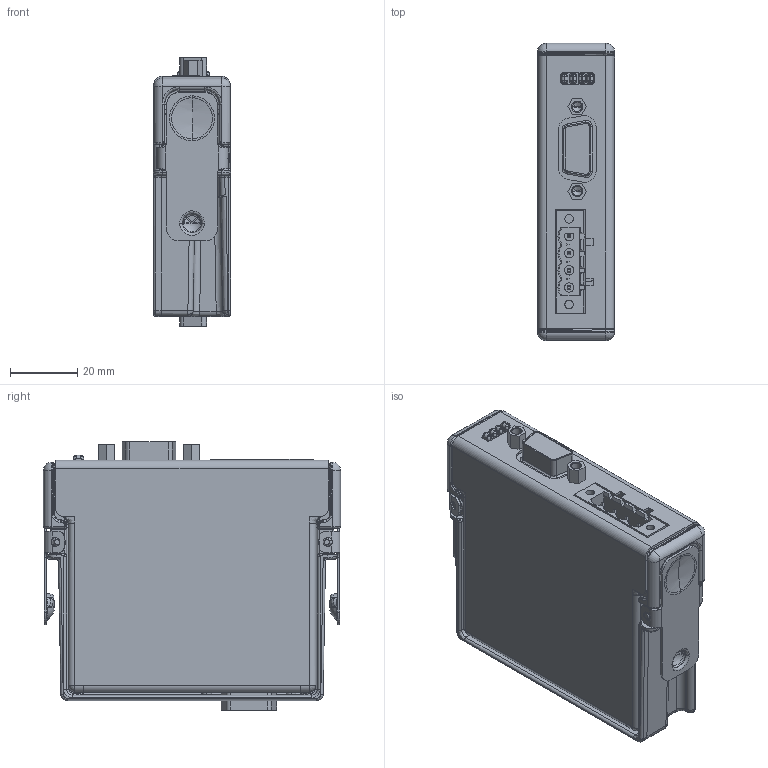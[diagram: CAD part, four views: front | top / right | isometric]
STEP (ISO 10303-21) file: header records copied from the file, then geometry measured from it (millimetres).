
FILE_DESCRIPTION((''),'2;1');
FILE_NAME('CART_CRIO_DB9_4P_CMBCN_LVL6','2007-01-24T',('chrisj'),(''),'PRO/ENGINEER BY PARAMETRIC TECHNOLOGY CORPORATION, 2006080','PRO/ENGINEER BY PARAMETRIC TECHNOLOGY CORPORATION, 2006080','');
FILE_SCHEMA(('AUTOMOTIVE_DESIGN_CC2 { 1 2 10303 214 -1 1 5 2 }'));
Products named in the file (1): CART_CRIO_DB9_4P_CMBCN_LVL6
Bounding box: 22.86 x 88.11 x 79.48 mm (x, y, z)
Volume: 43466.2 mm3; surface area: 47990 mm2
Topology: 10 solids, 10 shells, 1938 faces, 4632 edges, 2724 vertices
Faces by surface type: plane 781, cylinder 557, bspline 381, cone 82, sphere 71, torus 60, extrusion 6
Entity records: 76906 total; most frequent: CARTESIAN_POINT 35111, ORIENTED_EDGE 9112, DIRECTION 7900, EDGE_CURVE 4556, AXIS2_PLACEMENT_3D 2781, VERTEX_POINT 2762, VECTOR 2338, LINE 2332
